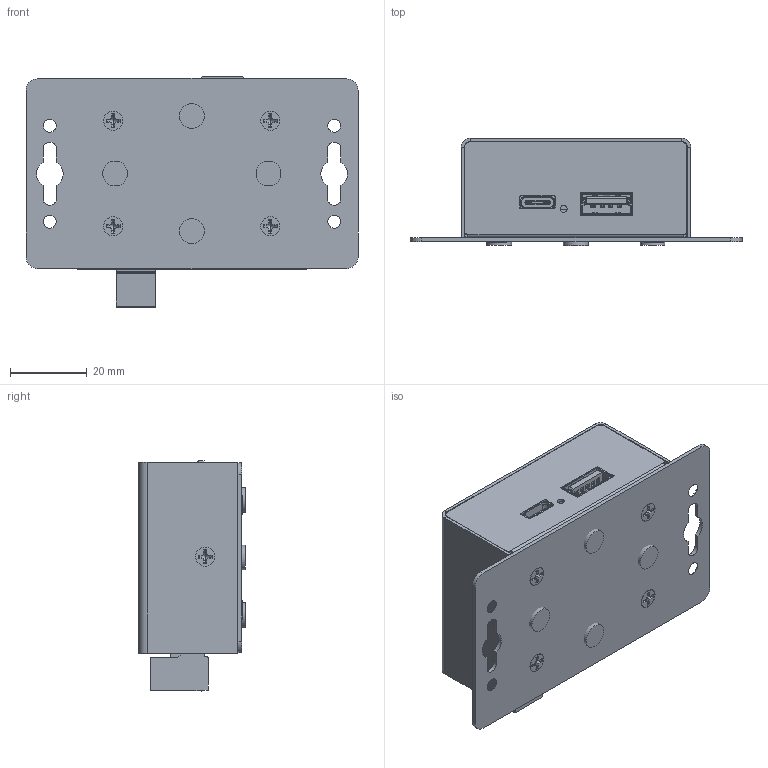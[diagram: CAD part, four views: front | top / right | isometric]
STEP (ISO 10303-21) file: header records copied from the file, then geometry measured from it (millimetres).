
FILE_DESCRIPTION(/* description */ (''),/* implementation_level */ '2;1');
FILE_NAME(/* name */ 'CG-PD60PPS-CC_Model3D_JWV1.step',/* time_stamp */ '2023-03-03T09:50:15-05:00',/* author */ (''),/* organization */ (''),/* preprocessor_version */ 'ST-DEVELOPER v19.2',/* originating_system */ 'Autodesk Translation Framework v11.17.0.187',/* authorisation */ '');
FILE_SCHEMA (('AUTOMOTIVE_DESIGN { 1 0 10303 214 3 1 1 }'));
Products named in the file (23): CG-PD60PPS-CC; Component302; Component303; CG-PD60PPS v6; CG-PD60PPS v1; Case; Base; 93090A547_Press-Fit Threaded Standoffs; Component2; USB Type A Single White v3; Download_STP_692121030100_(rev1); housing1; housing2; shielding; pin1; pin2; pin; C-type Usb v3; TypeC(12); Conector 2dbl short dinkle_2esdsm-02p v1; Phoenix connector; M3X0.5 China 120ang METRIC 18-8 SS FLAT HEAD PHIL MACHINE SCREW v2 (1
); M3X0.5 China 120ang METRIC 18-8 SS FLAT HEAD PHIL MACHINE SCREW v2
Assembly tree (35 placements, depth 5):
  CG-PD60PPS-CC
    Component302
    Component303
    CG-PD60PPS v6
      CG-PD60PPS v1
        Case
        Base
          93090A547_Press-Fit Threaded Standoffs  x4
        Component2
      USB Type A Single White v3
        Download_STP_692121030100_(rev1)
          housing1
          pin1  x5
          housing2
          pin2  x2
          pin  x2
          shielding
      C-type Usb v3
        TypeC(12)
      Conector 2dbl short dinkle_2esdsm-02p v1
      M3X0.5 China 120ang METRIC 18-8 SS FLAT HEAD PHIL MACHINE SCREW v2 (1
)  x2
      Phoenix connector
    M3X0.5 China 120ang METRIC 18-8 SS FLAT HEAD PHIL MACHINE SCREW v2  x4
Bounding box: 86.6 x 27.89 x 60 mm (x, y, z)
Volume: 20765.2 mm3; surface area: 45944.4 mm2
Topology: 33 solids, 33 shells, 2547 faces, 6975 edges, 4533 vertices
Faces by surface type: plane 1724, cylinder 590, cone 112, bspline 107, torus 8, sphere 6
Full cylindrical faces by diameter (mm): 0.5 x2, 1.6 x2, 1.8 x1, 2.35 x16, 2.529 x6, 3 x26, 3.332 x4, 3.5 x4, 3.86 x2, 4.765 x4, 5.4 x4, 6.5 x4
Entity records: 71471 total; most frequent: CARTESIAN_POINT 17794, ORIENTED_EDGE 11332, DIRECTION 10440, EDGE_CURVE 5666, LINE 4402, VECTOR 4402, VERTEX_POINT 3685, AXIS2_PLACEMENT_3D 3019
